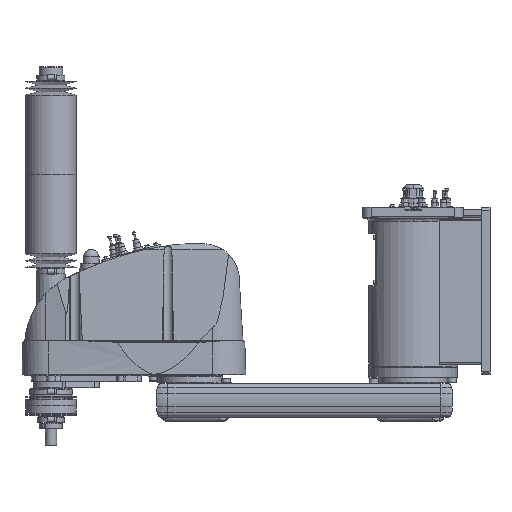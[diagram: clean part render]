
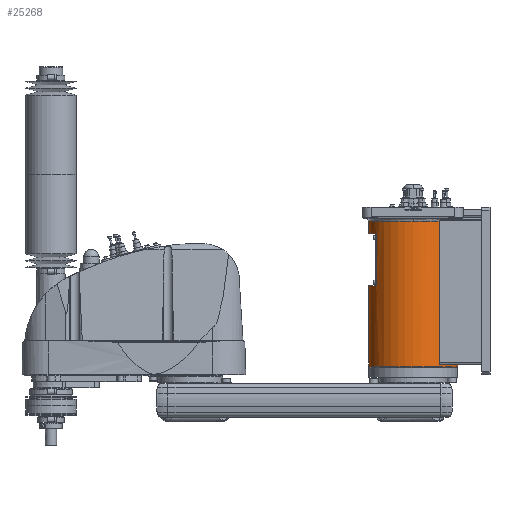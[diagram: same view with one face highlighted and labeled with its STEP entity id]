
A CAD part, top view. The second image highlights one B-rep face of the part: STEP entity #25268.
In plain terms, the highlighted cylindrical face has radius 80 mm (diameter 160 mm), a partial arc.
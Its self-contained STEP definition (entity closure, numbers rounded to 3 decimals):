
#9294 = EDGE_CURVE( '', #18980, #11162, #27722, .T. );
#10680 = VERTEX_POINT( '', #29251 );
#11162 = VERTEX_POINT( '', #29784 );
#12254 = EDGE_CURVE( '', #26994, #21272, #31019, .T. );
#13420 = EDGE_CURVE( '', #22546, #14466, #32298, .T. );
#14466 = VERTEX_POINT( '', #33476 );
#14704 = EDGE_CURVE( '', #14466, #19338, #33743, .T. );
#15290 = EDGE_CURVE( '', #22546, #10680, #34392, .T. );
#15978 = EDGE_CURVE( '', #19338, #18980, #35156, .T. );
#17774 = EDGE_CURVE( '', #18466, #17910, #37151, .T. );
#17910 = VERTEX_POINT( '', #37300 );
#18466 = VERTEX_POINT( '', #37918 );
#18980 = VERTEX_POINT( '', #38492 );
#19262 = EDGE_CURVE( '', #26496, #18466, #38804, .T. );
#19338 = VERTEX_POINT( '', #38891 );
#19346 = EDGE_CURVE( '', #11162, #26994, #38899, .T. );
#21272 = VERTEX_POINT( '', #41075 );
#22334 = EDGE_CURVE( '', #21272, #27588, #42259, .T. );
#22546 = VERTEX_POINT( '', #42493 );
#25268 = ADVANCED_FACE( '', ( #45560 ), #45561, .T. );
#26496 = VERTEX_POINT( '', #46917 );
#26994 = VERTEX_POINT( '', #47472 );
#27108 = EDGE_CURVE( '', #10680, #17910, #47603, .T. );
#27212 = EDGE_CURVE( '', #27588, #26496, #47720, .T. );
#27588 = VERTEX_POINT( '', #48141 );
#27722 = CIRCLE( '', #48295, 80. );
#29251 = CARTESIAN_POINT( '', ( 0., 291.5, 80. ) );
#29784 = CARTESIAN_POINT( '', ( -80., 176., 0. ) );
#31019 = CIRCLE( '', #53377, 80. );
#32298 = LINE( '', #55528, #55529 );
#33476 = CARTESIAN_POINT( '', ( -80., 269., 0. ) );
#33743 = CIRCLE( '', #57722, 80. );
#34392 = CIRCLE( '', #58712, 80. );
#35156 = LINE( '', #59813, #59814 );
#37151 = LINE( '', #62948, #62949 );
#37300 = CARTESIAN_POINT( '', ( 46.637, 291.5, 65. ) );
#37918 = CARTESIAN_POINT( '', ( 46.637, 37.5, 65. ) );
#38492 = CARTESIAN_POINT( '', ( -66., 176., 45.211 ) );
#38804 = B_SPLINE_CURVE_WITH_KNOTS( '', 3, ( #65380, #65381, #65382, #65383, #65384, #65385, #65386, #65387, #65388, #65389, #65390, #65391, #65392, #65393, #65394, #65395 ), .UNSPECIFIED., .F., .F., ( 4, 2, 2, 2, 2, 2, 2, 4 ), ( -6.06, -5.11, -4.16, -2.26, -1.695, -1.13, -0.565, 0. ), .UNSPECIFIED. );
#38891 = CARTESIAN_POINT( '', ( -66., 269., 45.211 ) );
#38899 = LINE( '', #65534, #65535 );
#41075 = CARTESIAN_POINT( '', ( 80., 30., 0. ) );
#42259 = LINE( '', #70479, #70480 );
#42493 = CARTESIAN_POINT( '', ( -80., 291.5, 0. ) );
#45560 = FACE_OUTER_BOUND( '', #75732, .T. );
#45561 = CYLINDRICAL_SURFACE( '', #75733, 80. );
#46917 = CARTESIAN_POINT( '', ( 50.557, 34.5, 62. ) );
#47472 = CARTESIAN_POINT( '', ( -80., 30., 0. ) );
#47603 = CIRCLE( '', #78896, 80. );
#47720 = CIRCLE( '', #79063, 80. );
#48141 = CARTESIAN_POINT( '', ( 80., 34.5, 0. ) );
#48295 = AXIS2_PLACEMENT_3D( '', #79998, #79999, #80000 );
#53377 = AXIS2_PLACEMENT_3D( '', #83870, #83871, #83872 );
#55528 = CARTESIAN_POINT( '', ( -80., 160.75, 0. ) );
#55529 = VECTOR( '', #85197, 1. );
#57722 = AXIS2_PLACEMENT_3D( '', #86922, #86923, #86924 );
#58712 = AXIS2_PLACEMENT_3D( '', #87643, #87644, #87645 );
#59813 = CARTESIAN_POINT( '', ( -66., 222.5, 45.211 ) );
#59814 = VECTOR( '', #88516, 1. );
#62948 = CARTESIAN_POINT( '', ( 46.637, 164.5, 65. ) );
#62949 = VECTOR( '', #90829, 1. );
#65380 = CARTESIAN_POINT( '', ( 50.557, 34.5, 62. ) );
#65381 = CARTESIAN_POINT( '', ( 50.312, 34.5, 62.2 ) );
#65382 = CARTESIAN_POINT( '', ( 50.054, 34.52, 62.407 ) );
#65383 = CARTESIAN_POINT( '', ( 49.533, 34.607, 62.822 ) );
#65384 = CARTESIAN_POINT( '', ( 49.269, 34.674, 63.029 ) );
#65385 = CARTESIAN_POINT( '', ( 48.491, 34.945, 63.632 ) );
#65386 = CARTESIAN_POINT( '', ( 47.991, 35.221, 64.009 ) );
#65387 = CARTESIAN_POINT( '', ( 47.455, 35.701, 64.405 ) );
#65388 = CARTESIAN_POINT( '', ( 47.333, 35.827, 64.495 ) );
#65389 = CARTESIAN_POINT( '', ( 47.106, 36.105, 64.661 ) );
#65390 = CARTESIAN_POINT( '', ( 47.002, 36.258, 64.736 ) );
#65391 = CARTESIAN_POINT( '', ( 46.828, 36.585, 64.863 ) );
#65392 = CARTESIAN_POINT( '', ( 46.758, 36.761, 64.913 ) );
#65393 = CARTESIAN_POINT( '', ( 46.662, 37.124, 64.982 ) );
#65394 = CARTESIAN_POINT( '', ( 46.637, 37.312, 65. ) );
#65395 = CARTESIAN_POINT( '', ( 46.637, 37.5, 65. ) );
#65534 = CARTESIAN_POINT( '', ( -80., 160.75, 0. ) );
#65535 = VECTOR( '', #92839, 1. );
#70479 = CARTESIAN_POINT( '', ( 80., 160.75, 0. ) );
#70480 = VECTOR( '', #96911, 1. );
#75732 = EDGE_LOOP( '', ( #100843, #100844, #100845, #100846, #100847, #100848, #100849, #100850, #100851, #100852, #100853, #100854 ) );
#75733 = AXIS2_PLACEMENT_3D( '', #100855, #100856, #100857 );
#78896 = AXIS2_PLACEMENT_3D( '', #103158, #103159, #103160 );
#79063 = AXIS2_PLACEMENT_3D( '', #103295, #103296, #103297 );
#79998 = CARTESIAN_POINT( '', ( 0., 176., 0. ) );
#79999 = DIRECTION( '', ( 0., -1., 0. ) );
#80000 = DIRECTION( '', ( 1., 0., 0. ) );
#83870 = CARTESIAN_POINT( '', ( 0., 30., 0. ) );
#83871 = DIRECTION( '', ( 0., 1., 0. ) );
#83872 = DIRECTION( '', ( 1., 0., 0. ) );
#85197 = DIRECTION( '', ( 0., -1., 0. ) );
#86922 = CARTESIAN_POINT( '', ( 0., 269., 0. ) );
#86923 = DIRECTION( '', ( 0., 1., 0. ) );
#86924 = DIRECTION( '', ( 1., 0., 0. ) );
#87643 = CARTESIAN_POINT( '', ( 0., 291.5, 0. ) );
#87644 = DIRECTION( '', ( 0., 1., 0. ) );
#87645 = DIRECTION( '', ( 1., 0., 0. ) );
#88516 = DIRECTION( '', ( 0., -1., 0. ) );
#90829 = DIRECTION( '', ( 0., 1., 0. ) );
#92839 = DIRECTION( '', ( 0., -1., 0. ) );
#96911 = DIRECTION( '', ( 0., 1., 0. ) );
#100843 = ORIENTED_EDGE( '', *, *, #22334, .T. );
#100844 = ORIENTED_EDGE( '', *, *, #27212, .T. );
#100845 = ORIENTED_EDGE( '', *, *, #19262, .T. );
#100846 = ORIENTED_EDGE( '', *, *, #17774, .T. );
#100847 = ORIENTED_EDGE( '', *, *, #27108, .F. );
#100848 = ORIENTED_EDGE( '', *, *, #15290, .F. );
#100849 = ORIENTED_EDGE( '', *, *, #13420, .T. );
#100850 = ORIENTED_EDGE( '', *, *, #14704, .T. );
#100851 = ORIENTED_EDGE( '', *, *, #15978, .T. );
#100852 = ORIENTED_EDGE( '', *, *, #9294, .T. );
#100853 = ORIENTED_EDGE( '', *, *, #19346, .T. );
#100854 = ORIENTED_EDGE( '', *, *, #12254, .T. );
#100855 = CARTESIAN_POINT( '', ( 0., 160.75, 0. ) );
#100856 = DIRECTION( '', ( 0., -1., 0. ) );
#100857 = DIRECTION( '', ( 1., 0., 0. ) );
#103158 = CARTESIAN_POINT( '', ( 0., 291.5, 0. ) );
#103159 = DIRECTION( '', ( 0., 1., 0. ) );
#103160 = DIRECTION( '', ( 1., 0., 0. ) );
#103295 = CARTESIAN_POINT( '', ( 0., 34.5, 0. ) );
#103296 = DIRECTION( '', ( 0., -1., 0. ) );
#103297 = DIRECTION( '', ( 1., 0., 0. ) );
